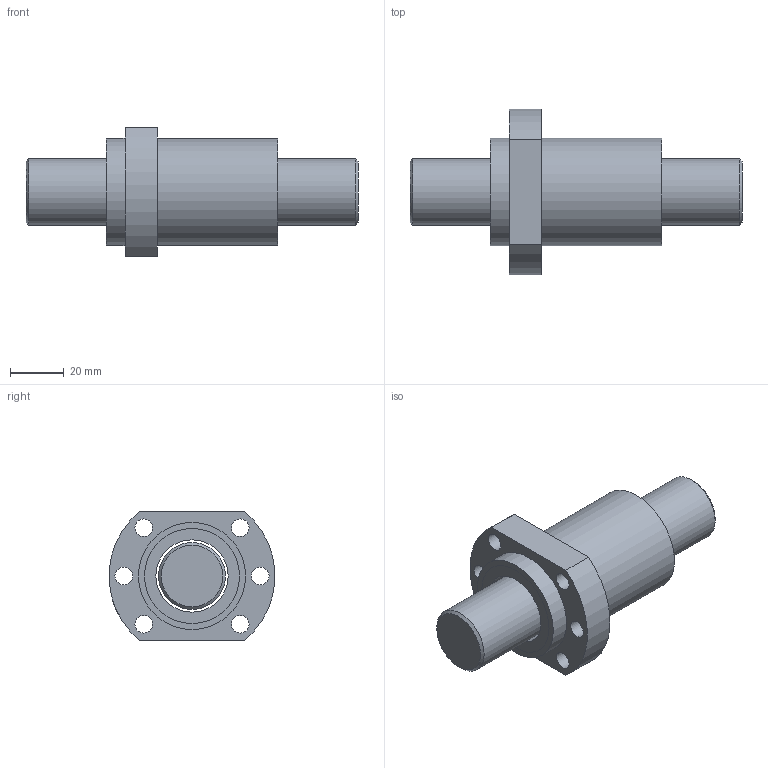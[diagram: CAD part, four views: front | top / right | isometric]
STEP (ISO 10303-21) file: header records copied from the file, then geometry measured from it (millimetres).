
FILE_DESCRIPTION (( 'STEP AP203' ), '1' );
FILE_NAME ('SFNH2525-1.8.STEP', '2023-07-28T02:09:35', ( '' ), ( '' ), 'SwSTEP 2.0', 'SolidWorks 2022', '' );
FILE_SCHEMA (( 'CONFIG_CONTROL_DESIGN' ));
Length unit declared in the file: millimetre
Products named in the file (1): SFNH2525-1.8
Bounding box: 124 x 61.8 x 48 mm (x, y, z)
Volume: 118462.4 mm3; surface area: 35752 mm2
Topology: 4 solids, 4 shells, 62 faces, 124 edges, 82 vertices
Faces by surface type: cylinder 33, plane 23, cone 3, bspline 3
Full cylindrical faces by diameter (mm): 4 x1, 5 x5, 6.6 x6, 25 x1, 27 x3, 32 x4, 35.5 x4, 37 x4, 40 x2
Entity records: 2516 total; most frequent: CARTESIAN_POINT 1352, DIRECTION 234, ORIENTED_EDGE 154, EDGE_LOOP 118, AXIS2_PLACEMENT_3D 111, FACE_OUTER_BOUND 83, EDGE_CURVE 77, VERTEX_POINT 69
